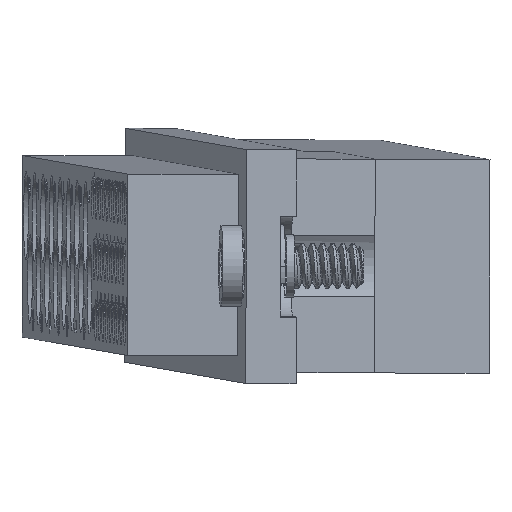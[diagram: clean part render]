
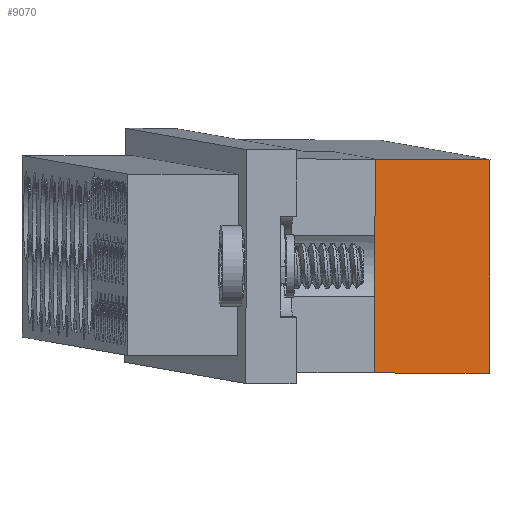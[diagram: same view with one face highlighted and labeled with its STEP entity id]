
A CAD part, top view. The second image highlights one B-rep face of the part: STEP entity #9070.
In plain terms, the highlighted planar face has unit normal (0.052, -0.011, 0.999).
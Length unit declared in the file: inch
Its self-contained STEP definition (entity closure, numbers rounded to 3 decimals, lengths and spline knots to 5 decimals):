
#1050=CARTESIAN_POINT('',(-1.64881,-2.01576,7.16303));
#1051=VERTEX_POINT('',#1050);
#1066=CARTESIAN_POINT('',(-1.64672,-1.48579,7.1687));
#1067=VERTEX_POINT('',#1066);
#1074=CARTESIAN_POINT('',(-1.64881,-2.01576,7.16303));
#1075=DIRECTION('',(0.004,1.,0.011));
#1076=VECTOR('',#1075,0.53);
#1077=LINE('',#1074,#1076);
#1078=EDGE_CURVE('',#1051,#1067,#1077,.T.);
#8888=CARTESIAN_POINT('',(-1.93133,-1.48483,7.18359));
#8889=VERTEX_POINT('',#8888);
#8904=CARTESIAN_POINT('',(-1.93341,-2.0148,7.17792));
#8905=VERTEX_POINT('',#8904);
#8912=CARTESIAN_POINT('',(-1.93133,-1.48483,7.18359));
#8913=DIRECTION('',(-0.004,-1.,-0.011));
#8914=VECTOR('',#8913,0.53);
#8915=LINE('',#8912,#8914);
#8916=EDGE_CURVE('',#8889,#8905,#8915,.T.);
#9030=CARTESIAN_POINT('',(-1.93133,-1.48483,7.18359));
#9031=DIRECTION('',(0.999,-0.003,-0.052));
#9032=VECTOR('',#9031,0.285);
#9033=LINE('',#9030,#9032);
#9034=EDGE_CURVE('',#8889,#1067,#9033,.T.);
#9054=CARTESIAN_POINT('',(-2.00332,-2.01456,7.18157));
#9055=DIRECTION('',(0.052,-0.011,0.999));
#9056=DIRECTION('',(0.999,-0.003,-0.052));
#9057=AXIS2_PLACEMENT_3D('',#9054,#9055,#9056);
#9058=PLANE('',#9057);
#9059=ORIENTED_EDGE('',*,*,#8916,.T.);
#9060=CARTESIAN_POINT('',(-1.93341,-2.0148,7.17792));
#9061=DIRECTION('',(0.999,-0.003,-0.052));
#9062=VECTOR('',#9061,0.285);
#9063=LINE('',#9060,#9062);
#9064=EDGE_CURVE('',#8905,#1051,#9063,.T.);
#9065=ORIENTED_EDGE('',*,*,#9064,.T.);
#9066=ORIENTED_EDGE('',*,*,#1078,.T.);
#9067=ORIENTED_EDGE('',*,*,#9034,.F.);
#9068=EDGE_LOOP('',(#9059,#9065,#9066,#9067));
#9069=FACE_OUTER_BOUND('',#9068,.T.);
#9070=ADVANCED_FACE('',(#9069),#9058,.T.);
